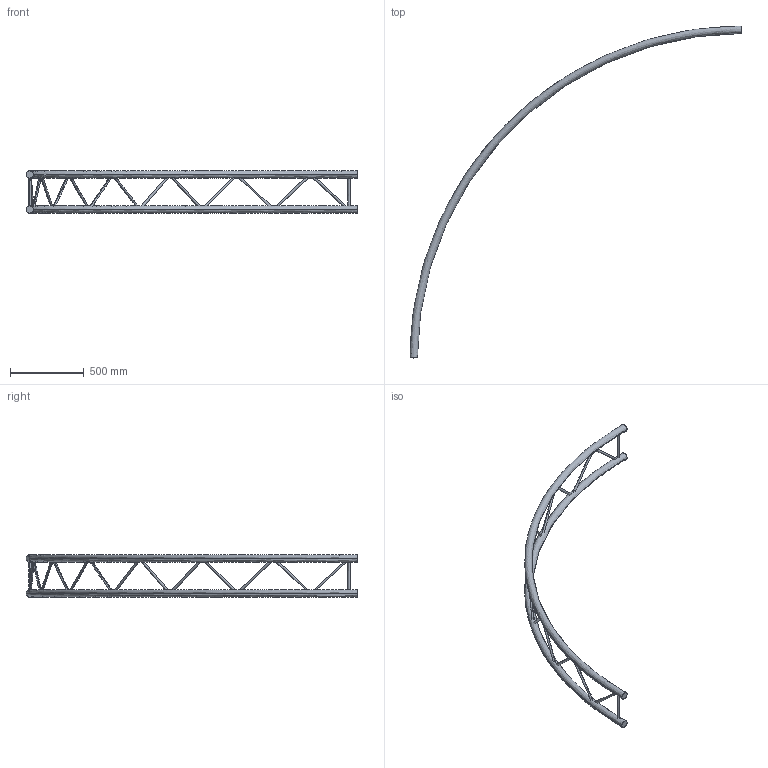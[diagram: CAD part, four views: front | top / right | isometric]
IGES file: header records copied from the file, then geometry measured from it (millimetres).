
Start section: SolidWorks IGES file using analytic representation for surfaces
Global section: file name: K:\BIBLIO\asd_biblio\EX290\Cercles\EXC290V\EXC29450V\EXC29450V.IGS; native system: SolidWorks 2009; preprocessor: SolidWorks 2009; author: des3; date: 091026.102033; units: millimetre
Bounding box: 2250 x 2250 x 287 mm (x, y, z)
Surface area: 1329605.3 mm2 (no closed solid volume)
Topology: 0 solids, 0 shells, 53 faces, 2054 edges, 2054 vertices
Faces by surface type: revolution 30, bspline 23
